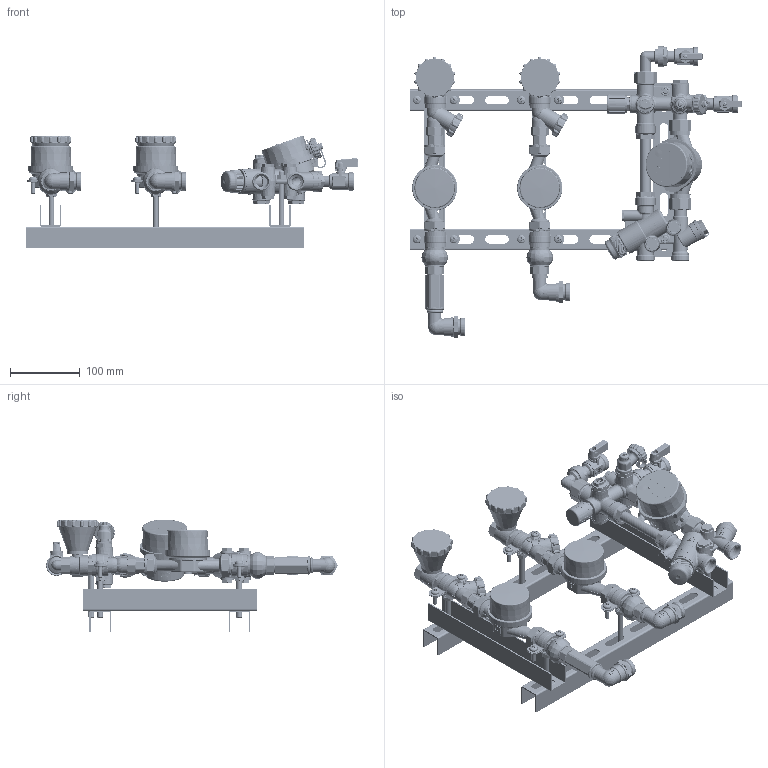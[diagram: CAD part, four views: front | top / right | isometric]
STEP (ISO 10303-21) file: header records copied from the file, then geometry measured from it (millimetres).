
FILE_DESCRIPTION(('STEP AP242'), '1');
FILE_NAME('覆.494726.015.000 捘 - VT.LB.H0.M0', '', ('UNSPECIFIED'), ('UNSPECIFIED'), 'C3D Converter', 'C3D Toolkit', '');
FILE_SCHEMA(('AP242_MANAGED_MODEL_BASED_3D_ENGINEERING_MIM_LF { 1 0 10303 442 1 1 4 }'));
Length unit declared in the file: millimetre
Products named in the file (230): ВР.494726.015.000 СБ; ВР.494726.013.001 СБ; ВР.494726.012.001 СБ; ВР.494726.002.001.002 СБ; ВР.731371.001; ВР.725140.002; ВР.753125.023; ВР.758421.046; ВР.753612.008; ВР.305319.007.000 СБ; ВР.753125.011; ВР.305319.008.000 СБ; ВР.753125.012; ВР.494726.012.001.001 СБ; ВР.731378.002; ВР.731378.002П; ВР.305319.003.000 СБ; ВР.752513.005; ВР.493619.002.000 СБ; ВР.753191.001; ВР.713161.001; ВР.712221.001; ВР.493619.002.001 СБ; ВР.753157.001; ВР.493619.002.002 СБ; ВР.716623.001; ВР.753512.018; ВР.494726.002.005 СБ; ВР.713791.001; ВР.407223.001.000 СБ; ВР.407223.001.002 СБ; ВР.731464.002; ВР.753182.016; ВР.714411.001; ВР.715113.003; ВР.407223.001.002.002 СБ; ВР.753192.014; ВР.715113.002; ВР.711141.021; ВР.713121.002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
Assembly tree (287 placements, depth 8):
  ВР.494726.015.000 СБ
    ВР.494726.013.001 СБ
      ВР.494726.012.001 СБ
        ВР.494726.002.001.002 СБ
          ВР.731371.001
          ВР.725140.002
          (unnamed)
            ВР.753125.023
            (unnamed)
          ВР.758421.046
          ВР.753612.008
          ВР.305319.007.000 СБ
            ВР.753125.011
            (unnamed)
          ВР.305319.008.000 СБ  x2
            ВР.753125.012
            (unnamed)
        ВР.494726.012.001.001 СБ
          ВР.731378.002
            ВР.731378.002П
          ВР.758421.046
          ВР.753612.008
          ВР.305319.003.000 СБ
            ВР.752513.005
            (unnamed)
          ВР.493619.002.000 СБ
            ВР.753191.001
            ВР.713161.001
            ВР.712221.001
            (unnamed)
            ВР.493619.002.001 СБ
              ВР.753157.001
              (unnamed)
              (unnamed)
              (unnamed)
            ВР.493619.002.002 СБ
              ВР.716623.001
              (unnamed)
            ВР.753512.018
          ВР.494726.002.005 СБ  x2
            ВР.713791.001
            (unnamed)
        ВР.407223.001.000 СБ
          ВР.407223.001.002 СБ
            ВР.731464.002
            ВР.753182.016
            ВР.714411.001
              ВР.715113.003
            ВР.407223.001.002.002 СБ
              ВР.753192.014
                ВР.715113.002
              ВР.711141.021
              ВР.713121.002
            ВР.711141.022
            ВР.407223.001.002.001 СБ
              ВР.753181.009
              ВР.713141.002
            (unnamed)
            ВР.711141.023
            ВР.711242.002
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Bounding box: 477.22 x 419.39 x 162.13 mm (x, y, z)
Volume: 1209719.4 mm3; surface area: 1050581.3 mm2
Topology: 334 solids, 337 shells, 27117 faces, 73272 edges, 48172 vertices
Faces by surface type: plane 10747, extrusion 7082, cylinder 5703, cone 1621, bspline 1079, torus 802, sphere 83
Full cylindrical faces by diameter (mm): 0.4 x4, 0.6 x23, 0.7 x2, 0.8 x12, 1 x10, 1.1 x308, 1.2 x23, 1.3 x15, 1.5 x53, 1.55 x2, 1.6 x23, 1.66 x4, 1.7 x3, 1.8 x10, 1.9 x5, 2 x33, 2.1 x4, 2.2 x11, 2.3 x3, 2.4 x2, 2.5 x11, 2.6 x1, 2.7 x2, 2.8 x1, 3 x70, 3.242 x2, 3.4 x35, 3.5 x6, 3.6 x5, 3.8 x5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
Entity records: 721062 total; most frequent: CARTESIAN_POINT 341070, ORIENTED_EDGE 78922, DIRECTION 61214, EDGE_CURVE 39466, VERTEX_POINT 26772, VECTOR 21898, AXIS2_PLACEMENT_3D 19658, EDGE_LOOP 18540
